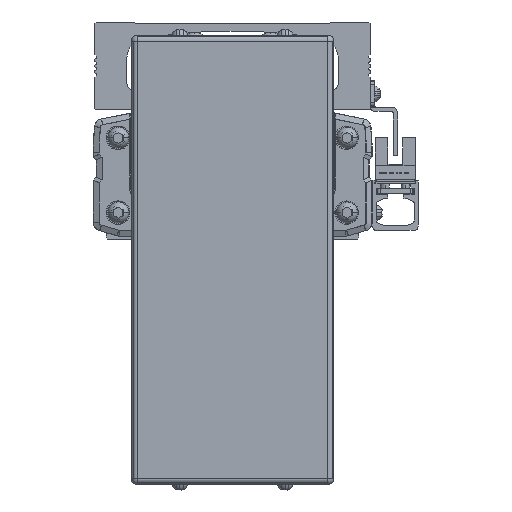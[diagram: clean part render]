
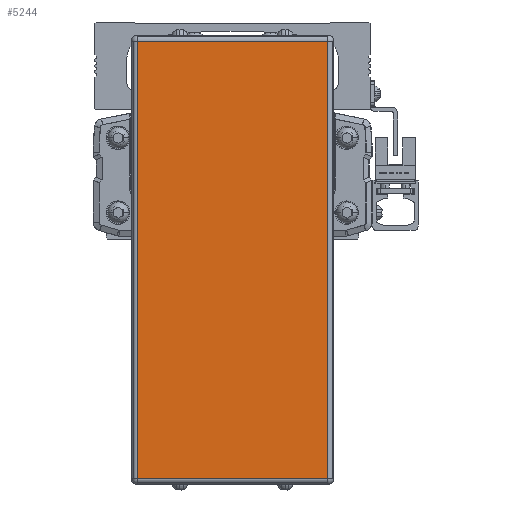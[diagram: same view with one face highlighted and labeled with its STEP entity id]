
A CAD part, front view. The second image highlights one B-rep face of the part: STEP entity #5244.
In plain terms, the highlighted planar face has unit normal (0, -1, 0).
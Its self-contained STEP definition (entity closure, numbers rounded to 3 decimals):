
#5244=ADVANCED_FACE('',(#11742),#11743,.T.);
#11742=FACE_OUTER_BOUND('',#20298,.T.);
#11743=PLANE('',#20299);
#20298=EDGE_LOOP('',(#36263,#36264,#36265,#36266));
#20299=AXIS2_PLACEMENT_3D('',#36267,#36268,#36269);
#36263=ORIENTED_EDGE('',*,*,#54492,.F.);
#36264=ORIENTED_EDGE('',*,*,#54493,.F.);
#36265=ORIENTED_EDGE('',*,*,#54494,.F.);
#36266=ORIENTED_EDGE('',*,*,#54495,.F.);
#36267=CARTESIAN_POINT('',(0.,-14.778,-50.1));
#36268=DIRECTION('',(0.0,-1.0,0.));
#36269=DIRECTION('',(1.0,0.0,0.0));
#54492=EDGE_CURVE('',#67191,#67192,#67193,.T.);
#54493=EDGE_CURVE('',#67194,#67191,#67195,.T.);
#54494=EDGE_CURVE('',#62289,#67194,#67196,.T.);
#54495=EDGE_CURVE('',#67192,#62289,#67197,.T.);
#62289=VERTEX_POINT('',#77537);
#67191=VERTEX_POINT('',#84918);
#67192=VERTEX_POINT('',#84919);
#67193=LINE('',#84920,#84921);
#67194=VERTEX_POINT('',#84922);
#67195=LINE('',#84923,#84924);
#67196=LINE('',#84925,#84926);
#67197=LINE('',#84927,#84928);
#77537=CARTESIAN_POINT('',(-32.5,-14.778,-124.7));
#84918=CARTESIAN_POINT('',(32.5,-14.778,24.5));
#84919=CARTESIAN_POINT('',(32.5,-14.778,-124.7));
#84920=CARTESIAN_POINT('',(32.5,-14.778,-50.1));
#84921=VECTOR('',#97937,10.0);
#84922=CARTESIAN_POINT('',(-32.5,-14.778,24.5));
#84923=CARTESIAN_POINT('',(0.,-14.778,24.5));
#84924=VECTOR('',#97938,10.0);
#84925=CARTESIAN_POINT('',(-32.5,-14.778,-50.1));
#84926=VECTOR('',#97939,10.0);
#84927=CARTESIAN_POINT('',(0.,-14.778,-124.7));
#84928=VECTOR('',#97940,10.0);
#97937=DIRECTION('',(0.0,0.,-1.0));
#97938=DIRECTION('',(1.0,0.0,0.0));
#97939=DIRECTION('',(0.0,0.,1.0));
#97940=DIRECTION('',(-1.0,0.0,0.0));
